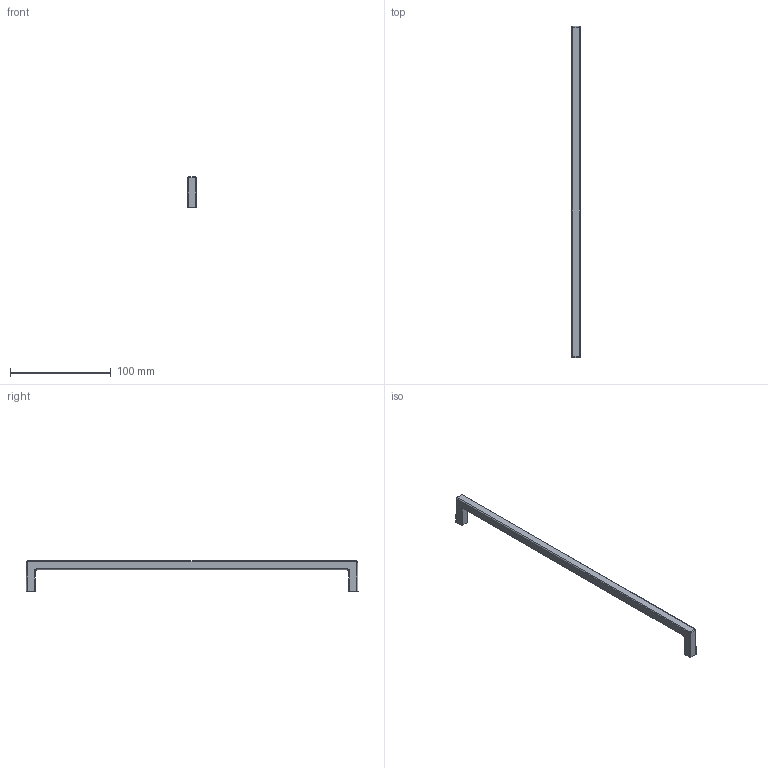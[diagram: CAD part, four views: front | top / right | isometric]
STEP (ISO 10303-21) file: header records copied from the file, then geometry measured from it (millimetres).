
FILE_DESCRIPTION( ( 'Unknown' ), '1' );
FILE_NAME( 'C:/Users/Georges/Desktop/022/8137-329.stp', 'Unknown', ( 'Unknown' ), ( 'Unknown' ), 'PSStep 16.0.42', 'Unknown', ' ' );
FILE_SCHEMA( ( 'AUTOMOTIVE_DESIGN { 1 0 10303 214 1 1 1 1 }' ) );
Length unit declared in the file: millimetre
Products named in the file (3): Assem1; E649; E649-1
Assembly tree (2 placements, depth 2):
  Assem1
    E649
    E649-1
Bounding box: 9 x 329 x 30 mm (x, y, z)
Volume: 26920.8 mm3; surface area: 26002.8 mm2
Topology: 2 solids, 2 shells, 110 faces, 276 edges, 168 vertices
Faces by surface type: plane 72, cylinder 22, bspline 12, sphere 4
Full cylindrical faces by diameter (mm): 4 x2
Entity records: 4400 total; most frequent: CARTESIAN_POINT 955, ORIENTED_EDGE 536, DIRECTION 492, EDGE_CURVE 268, LINE 182, VECTOR 182, VERTEX_POINT 166, AXIS2_PLACEMENT_3D 155
